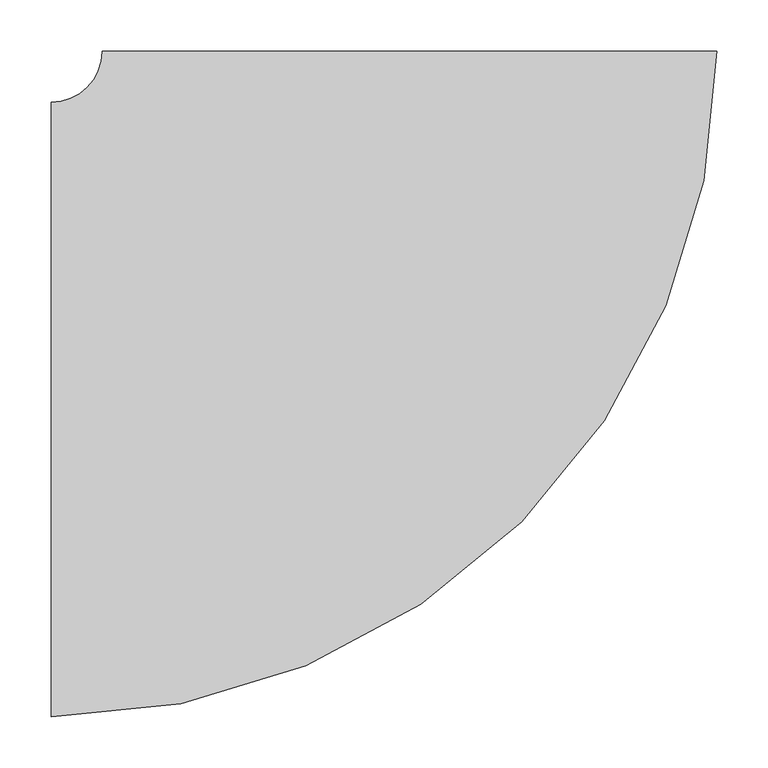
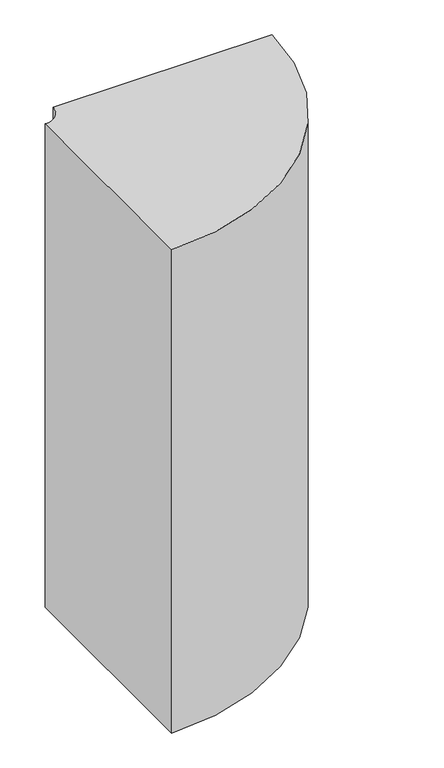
"""IFC4 building model written with IfcOpenShell, lengths in millimetres: duct fitting geometry, ADSK_ОтводВоздуховодов_Прямоугольный1 : Стандарт 2."""

from ifc_helpers import new_model, si_unit, point, frame, frame_2d, origin, place, context, project, spatial, polyline, circle_curve, trimmed, segment, composite_curve, outline, extrude, source, transform, mapped, element, save


def duct_fitting_0fd2956b(model_context):
    return source(origin(), model_context, "Body", "SweptSolid", [
        extrude(outline(composite_curve([segment(trimmed(circle_curve(frame_2d((-350.0, 350.0)), 650.0), [point((300.0, 350.0))], [point((-350.0, -300.0))], False, "CARTESIAN"), True, "CONTINUOUS"), segment(polyline([(-350.0, -300.0), (-350.0, 300.0)]), True, "CONTINUOUS"), segment(trimmed(circle_curve(frame_2d((-350.0, 350.0)), 50.0), [point((-350.0, 300.0))], [point((-300.0, 350.0))], True, "CARTESIAN"), True, "CONTINUOUS"), segment(polyline([(-300.0, 350.0), (300.0, 350.0)]), True, "CONTINUOUS")], self_intersect=False)), frame((0.0, 0.0, -700.0), z_axis=(0.0, 0.0, 1.0), x_axis=(1.0, 0.0, 0.0)), (0.0, 0.0, 1.0), 1400.0),
    ])


if __name__ == "__main__":
    model = new_model("IFC4")
    model_context = context("Model", 3, world=origin())
    ifc_project = project(units=[si_unit("LENGTHUNIT", "METRE", prefix="MILLI")], contexts=[model_context])
    site = spatial("IfcSite", under=ifc_project)
    building = spatial("IfcBuilding", under=site)
    placement = place(None, origin())
    duct_fitting_shape = duct_fitting_0fd2956b(model_context)
    element("IfcDuctFitting", 1, ObjectType="ADSK_ОтводВоздуховодов_Прямоугольный1 : Стандарт 2", at=placement, inside=building, context=model_context, shape_type="MappedRepresentation", body=[
        mapped(duct_fitting_shape, transform((0.0, 0.0, 0.0), x_axis=(1.0, 0.0, 0.0), y_axis=(0.0, 1.0, 0.0), z_axis=(0.0, 0.0, 1.0))),
    ])
    save(model, "model.ifc")
